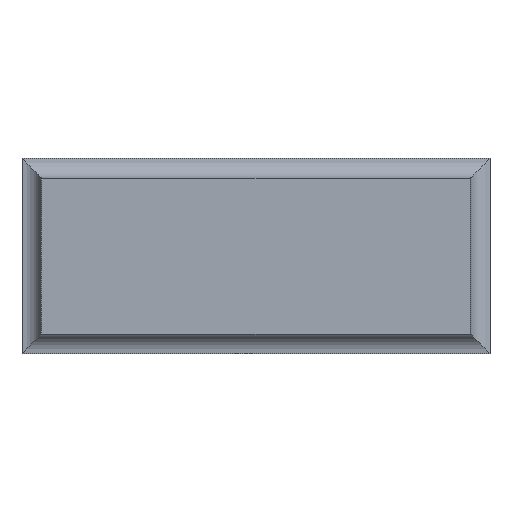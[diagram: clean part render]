
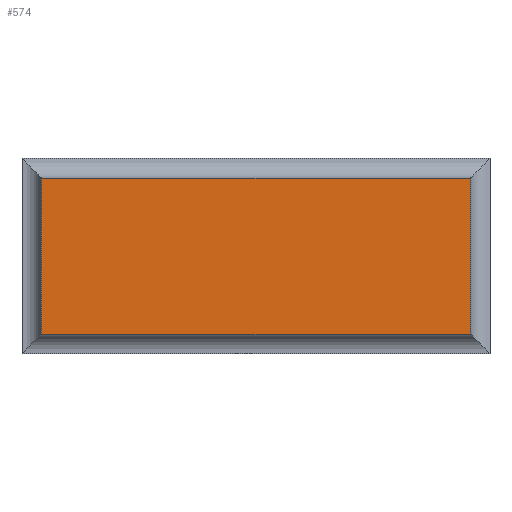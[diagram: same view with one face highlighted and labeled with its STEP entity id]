
A CAD part, left-side view. The second image highlights one B-rep face of the part: STEP entity #574.
In plain terms, the highlighted planar face has unit normal (-1, 0, 0).
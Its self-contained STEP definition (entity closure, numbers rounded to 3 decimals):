
#54=LINE('',#942,#100);
#56=LINE('',#948,#102);
#58=LINE('',#954,#104);
#60=LINE('',#958,#106);
#100=VECTOR('',#706,10.);
#102=VECTOR('',#712,10.);
#104=VECTOR('',#718,10.);
#106=VECTOR('',#724,10.);
#154=PLANE('',#638);
#198=FACE_OUTER_BOUND('',#242,.T.);
#242=EDGE_LOOP('',(#531,#532,#533,#534));
#285=VERTEX_POINT('',#939);
#286=VERTEX_POINT('',#941);
#288=VERTEX_POINT('',#947);
#290=VERTEX_POINT('',#953);
#337=EDGE_CURVE('',#286,#285,#54,.T.);
#340=EDGE_CURVE('',#288,#286,#56,.T.);
#343=EDGE_CURVE('',#290,#288,#58,.T.);
#346=EDGE_CURVE('',#285,#290,#60,.T.);
#531=ORIENTED_EDGE('',*,*,#343,.T.);
#532=ORIENTED_EDGE('',*,*,#340,.T.);
#533=ORIENTED_EDGE('',*,*,#337,.T.);
#534=ORIENTED_EDGE('',*,*,#346,.T.);
#574=ADVANCED_FACE('',(#198),#154,.T.);
#638=AXIS2_PLACEMENT_3D('',#1031,#809,#810);
#706=DIRECTION('',(0.,0.,-1.));
#712=DIRECTION('',(0.,1.,0.));
#718=DIRECTION('',(0.,0.,1.));
#724=DIRECTION('',(0.,-1.,0.));
#809=DIRECTION('center_axis',(-1.,0.,0.));
#810=DIRECTION('ref_axis',(0.,0.,1.));
#939=CARTESIAN_POINT('',(-66.007,32.119,5.));
#941=CARTESIAN_POINT('',(-66.007,32.119,9.));
#942=CARTESIAN_POINT('',(-66.007,32.119,9.5));
#947=CARTESIAN_POINT('',(-66.007,21.119,9.));
#948=CARTESIAN_POINT('',(-66.007,20.619,9.));
#953=CARTESIAN_POINT('',(-66.007,21.119,5.));
#954=CARTESIAN_POINT('',(-66.007,21.119,4.5));
#958=CARTESIAN_POINT('',(-66.007,32.619,5.));
#1031=CARTESIAN_POINT('Origin',(-66.007,26.619,7.));
